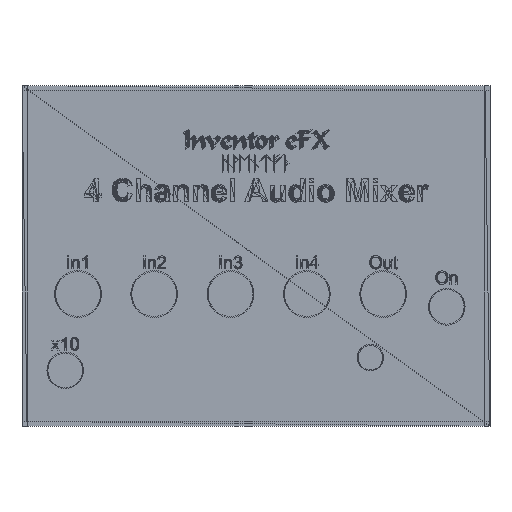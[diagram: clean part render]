
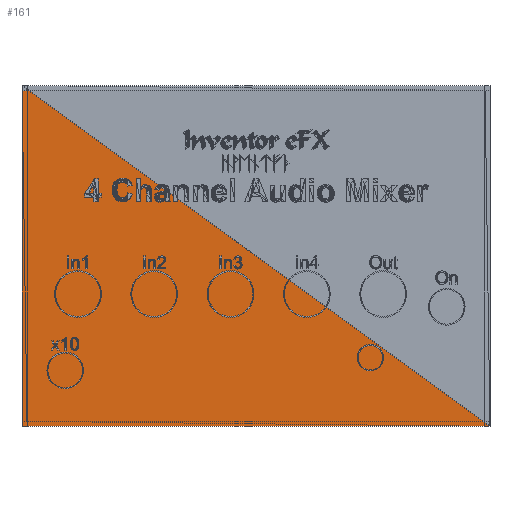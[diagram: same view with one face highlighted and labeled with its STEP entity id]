
A CAD part, top view. The second image highlights one B-rep face of the part: STEP entity #161.
In plain terms, the highlighted planar face has unit normal (0, 0, 1).
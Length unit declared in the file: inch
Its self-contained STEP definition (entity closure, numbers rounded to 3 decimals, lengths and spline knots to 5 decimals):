
#66=CARTESIAN_POINT('',(-0.05,-0.05017,0.84499));
#67=VERTEX_POINT('',#66);
#76=CARTESIAN_POINT('',(4.55,-0.05017,0.84499));
#77=VERTEX_POINT('',#76);
#78=CARTESIAN_POINT('',(-0.05,-0.05017,0.84499));
#79=DIRECTION('',(1.,0.,-0.));
#80=VECTOR('',#79,4.6);
#81=LINE('',#78,#80);
#82=EDGE_CURVE('',#67,#77,#81,.T.);
#139=CARTESIAN_POINT('',(-0.05,3.29983,0.84567));
#140=DIRECTION('',(0.,0.,1.));
#141=DIRECTION('',(1.,0.,0.));
#142=AXIS2_PLACEMENT_3D('',#139,#140,#141);
#143=PLANE('',#142);
#144=CARTESIAN_POINT('',(-0.05,3.29983,0.84567));
#145=VERTEX_POINT('',#144);
#146=CARTESIAN_POINT('',(-0.05,-0.05017,0.84499));
#147=DIRECTION('',(0.,1.,0.));
#148=VECTOR('',#147,3.35);
#149=LINE('',#146,#148);
#150=EDGE_CURVE('',#67,#145,#149,.T.);
#151=ORIENTED_EDGE('',*,*,#150,.F.);
#152=ORIENTED_EDGE('',*,*,#82,.T.);
#153=CARTESIAN_POINT('',(4.55,-0.05017,0.84499));
#154=DIRECTION('',(-0.808,0.589,0.));
#155=VECTOR('',#154,5.69056);
#156=LINE('',#153,#155);
#157=EDGE_CURVE('',#77,#145,#156,.T.);
#158=ORIENTED_EDGE('',*,*,#157,.T.);
#159=EDGE_LOOP('',(#151,#152,#158));
#160=FACE_BOUND('',#159,.T.);
#161=ADVANCED_FACE('',(#160),#143,.T.);
